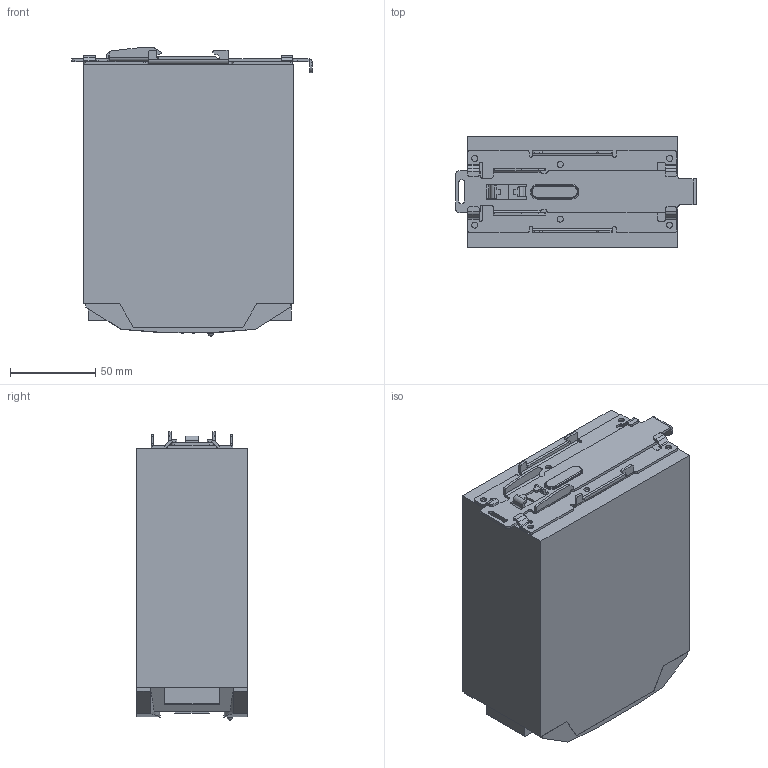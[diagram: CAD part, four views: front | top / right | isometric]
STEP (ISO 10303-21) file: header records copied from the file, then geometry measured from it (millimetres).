
FILE_DESCRIPTION(/* description */ (''),/* implementation_level */ '2;1');
FILE_NAME(/* name */ 'O:\Projekte_G\1529G0X\Grafiken\CAD\1529G02-0001.stp',/* time_stamp */ '2016-09-07T09:22:15+02:00',/* author */ ('aj'),/* organization */ (''),/* preprocessor_version */ 'ST-DEVELOPER v15.6',/* originating_system */ 'Autodesk Inventor 2015',/* authorisation */ '');
FILE_SCHEMA (('CONFIG_CONTROL_DESIGN'));
Length unit declared in the file: millimetre
Products named in the file (1): 1529G02-0001
Bounding box: 141 x 65 x 168.75 mm (x, y, z)
Volume: 1221220.8 mm3; surface area: 86247.9 mm2
Topology: 1 solids, 2 shells, 841 faces, 2205 edges, 1424 vertices
Faces by surface type: plane 491, cylinder 325, cone 16, torus 8, sphere 1
Full cylindrical faces by diameter (mm): 0.457 x2, 3.5 x7, 4 x4
Entity records: 29756 total; most frequent: CARTESIAN_POINT 7733, DIRECTION 4483, ORIENTED_EDGE 4374, EDGE_CURVE 2187, AXIS2_PLACEMENT_3D 1546, VERTEX_POINT 1420, LINE 1391, VECTOR 1391
